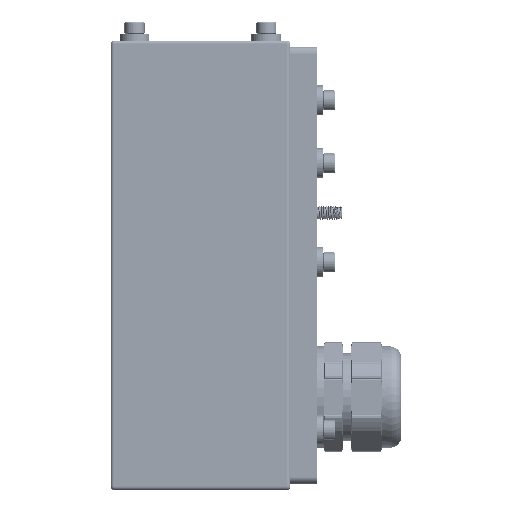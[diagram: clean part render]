
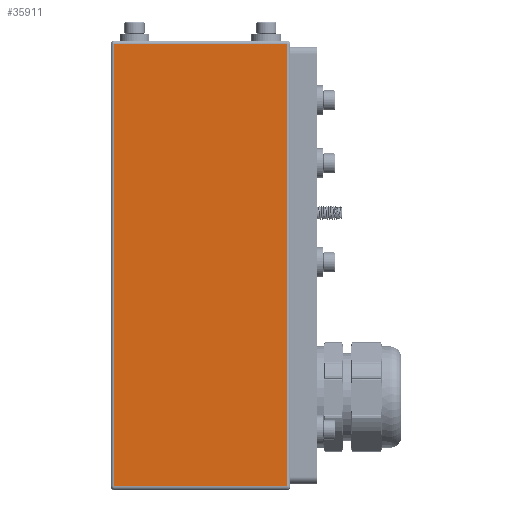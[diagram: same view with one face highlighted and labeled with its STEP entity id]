
A CAD part, left-side view. The second image highlights one B-rep face of the part: STEP entity #35911.
In plain terms, the highlighted planar face has unit normal (-1, 0, 0).
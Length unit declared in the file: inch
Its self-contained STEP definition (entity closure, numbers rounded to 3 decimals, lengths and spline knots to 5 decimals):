
#536 = LINE ( 'NONE', #11146, #37558 ) ;
#1706 = LINE ( 'NONE', #28095, #16097 ) ;
#4273 = ORIENTED_EDGE ( 'NONE', *, *, #33855, .T. ) ;
#7203 = DIRECTION ( 'NONE',  ( 0., 0., -1. ) ) ;
#7343 = VECTOR ( 'NONE', #7203, 39.37008 ) ;
#9105 = EDGE_CURVE ( 'NONE', #42199, #39314, #1706, .T. ) ;
#9669 = CARTESIAN_POINT ( 'NONE',  ( -1.5, 3., -7.5 ) ) ;
#11128 = VERTEX_POINT ( 'NONE', #28060 ) ;
#11146 = CARTESIAN_POINT ( 'NONE',  ( -1.5, 0.06, -7.5 ) ) ;
#12882 = EDGE_LOOP ( 'NONE', ( #4273, #13884, #41657, #40635 ) ) ;
#13884 = ORIENTED_EDGE ( 'NONE', *, *, #9105, .T. ) ;
#14995 = CARTESIAN_POINT ( 'NONE',  ( -1.5, 2.94, -7.5 ) ) ;
#15377 = EDGE_CURVE ( 'NONE', #39314, #34065, #536, .T. ) ;
#16097 = VECTOR ( 'NONE', #20546, 39.37008 ) ;
#17467 = DIRECTION ( 'NONE',  ( 1., 0., 0. ) ) ;
#19480 = CARTESIAN_POINT ( 'NONE',  ( -1.5, 0.06, -7.44 ) ) ;
#20546 = DIRECTION ( 'NONE',  ( 0., -1., 0. ) ) ;
#21243 = PLANE ( 'NONE',  #39781 ) ;
#28060 = CARTESIAN_POINT ( 'NONE',  ( -1.5, 2.94, -0.06 ) ) ;
#28095 = CARTESIAN_POINT ( 'NONE',  ( -1.5, 3., -7.44 ) ) ;
#29622 = LINE ( 'NONE', #32058, #36651 ) ;
#29875 = CARTESIAN_POINT ( 'NONE',  ( -1.5, 0.06, -0.06 ) ) ;
#32058 = CARTESIAN_POINT ( 'NONE',  ( -1.5, 3., -0.06 ) ) ;
#32267 = EDGE_CURVE ( 'NONE', #34065, #11128, #29622, .T. ) ;
#33855 = EDGE_CURVE ( 'NONE', #11128, #42199, #40235, .T. ) ;
#34065 = VERTEX_POINT ( 'NONE', #29875 ) ;
#35619 = DIRECTION ( 'NONE',  ( 0., 0., -1. ) ) ;
#35911 = ADVANCED_FACE ( 'NONE', ( #42010 ), #21243, .F. ) ;
#36651 = VECTOR ( 'NONE', #46420, 39.37008 ) ;
#37558 = VECTOR ( 'NONE', #39958, 39.37008 ) ;
#39314 = VERTEX_POINT ( 'NONE', #19480 ) ;
#39482 = CARTESIAN_POINT ( 'NONE',  ( -1.5, 2.94, -7.44 ) ) ;
#39781 = AXIS2_PLACEMENT_3D ( 'NONE', #9669, #17467, #35619 ) ;
#39958 = DIRECTION ( 'NONE',  ( 0., 0., 1. ) ) ;
#40235 = LINE ( 'NONE', #14995, #7343 ) ;
#40635 = ORIENTED_EDGE ( 'NONE', *, *, #32267, .T. ) ;
#41657 = ORIENTED_EDGE ( 'NONE', *, *, #15377, .T. ) ;
#42010 = FACE_OUTER_BOUND ( 'NONE', #12882, .T. ) ;
#42199 = VERTEX_POINT ( 'NONE', #39482 ) ;
#46420 = DIRECTION ( 'NONE',  ( 0., 1., 0. ) ) ;
